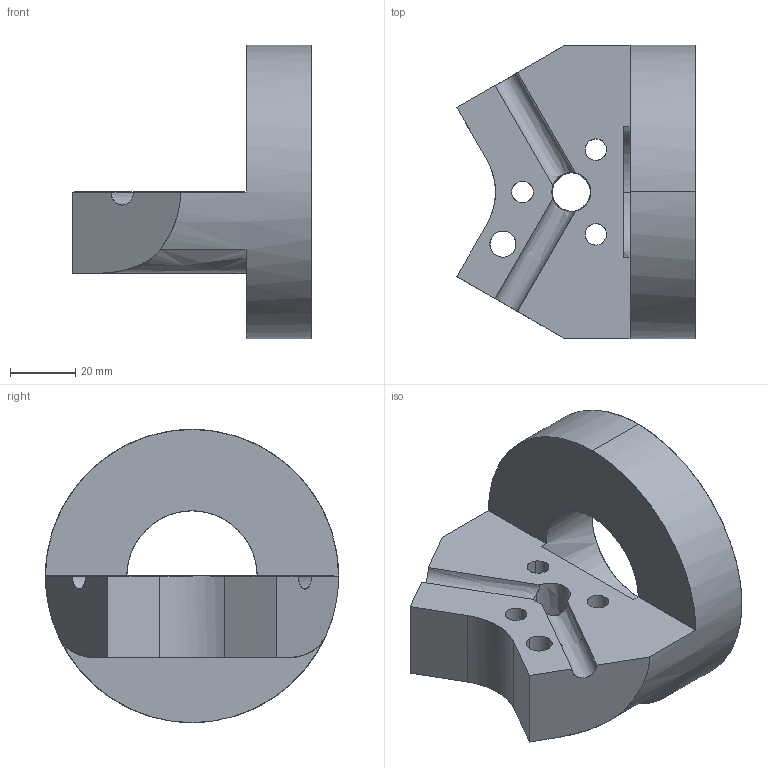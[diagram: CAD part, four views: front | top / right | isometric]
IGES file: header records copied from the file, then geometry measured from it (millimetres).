
Start section: 3D InterOp IGES (Version 26 1 0), Spatial Corp. Copyright (c) 1999-2007.
Global section: file name: _____.igs; native system: Spatial Corp.; preprocessor: 3D InterOp GENERIC/IGES 3.0; author: Noname; organization: Noname; date: 20210425.095836; units: millimetre
Bounding box: 73.16 x 90 x 90 mm (x, y, z)
Surface area: 32124.6 mm2 (no closed solid volume)
Topology: 0 solids, 0 shells, 39 faces, 294 edges, 294 vertices
Faces by surface type: bspline 39
